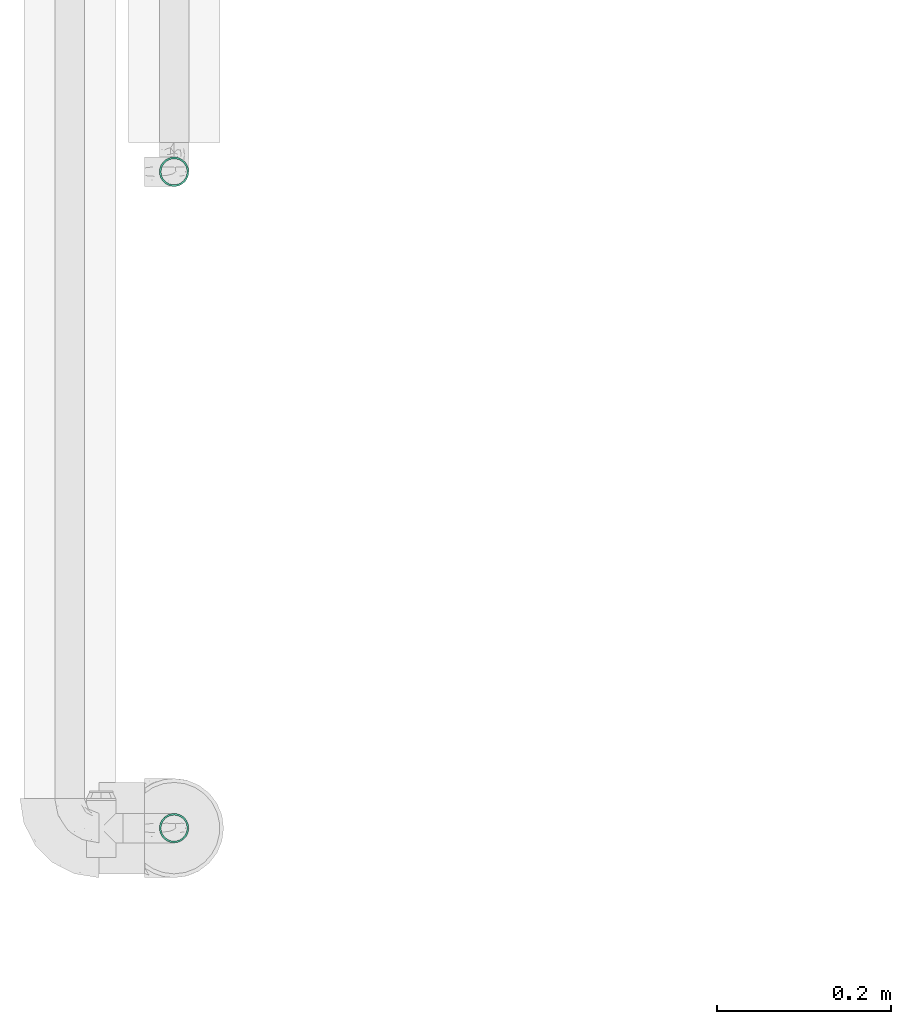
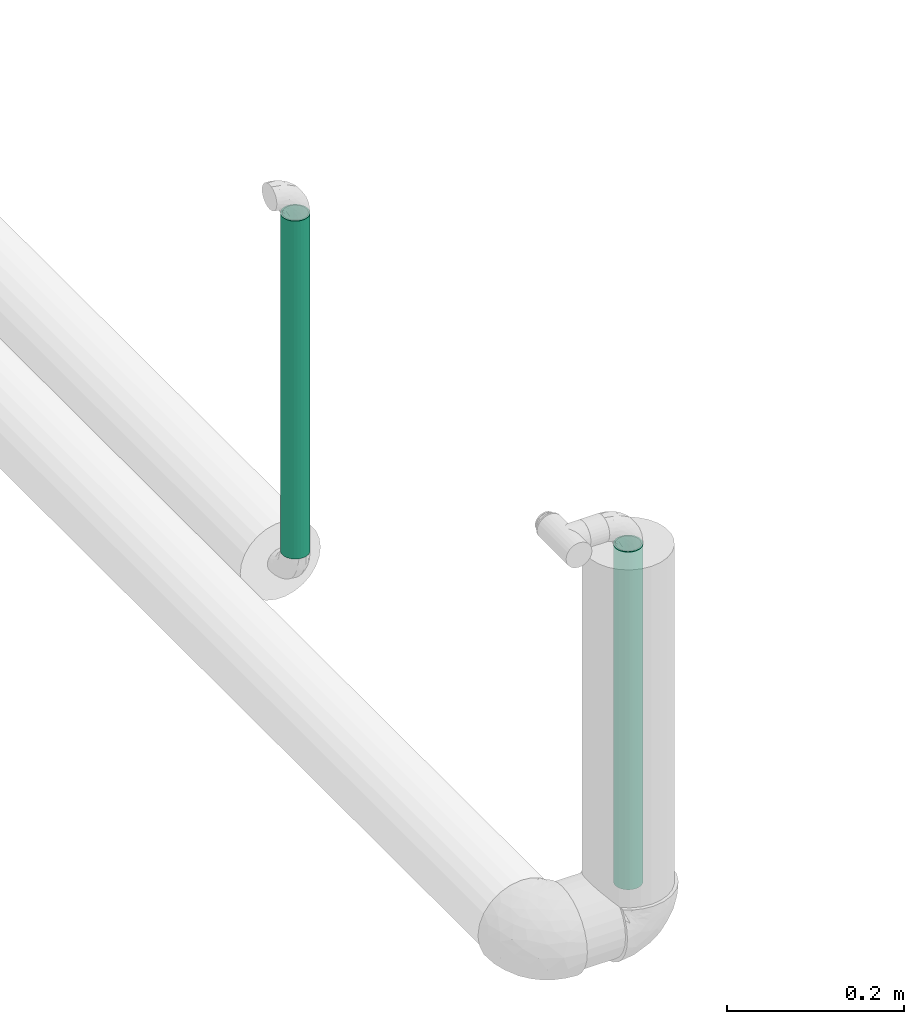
# One storey, part 5 of 17: 2 flow segments.
"""IFC2X3 building model written with IfcOpenShell, lengths in millimetres."""

from ifc_helpers import new_model, entity, si_unit, converted_unit, derived_unit, direction, frame, origin_with_axes, origin_2d_with_axis, place, context, subcontext, project, spatial, hollow_circle, extrude, source, transform, mapped, type_object, element, save


model = new_model("IFC2X3")

# Units and contexts
model_context = context("Model", 3, precision=0.01, world=frame((0.0, 4.29681676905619e-09, 0.0)), true_north=direction((4.01073788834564e-13, 1.0)))
plan_context = context("Plan", 3, precision=0.01, world=frame((0.0, 4.29681676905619e-09, 0.0)), true_north=direction((4.01073788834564e-13, 1.0)))
body_context = subcontext(model_context, "Body", "Model", "MODEL_VIEW")
ifc_project = project(units=[converted_unit("PLANEANGLEUNIT", "DEGREE", entity("IfcPositiveLengthMeasure", 0.0174532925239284), si_unit("PLANEANGLEUNIT", "RADIAN"), dimensions=[0, 0, 0, 0, 0, 0, 0]), si_unit("AREAUNIT", "SQUARE_METRE"), si_unit("LENGTHUNIT", "METRE", prefix="MILLI"), si_unit("MASSUNIT", "GRAM", prefix="KILO"), si_unit("POWERUNIT", "WATT"), si_unit("PRESSUREUNIT", "PASCAL", prefix="KILO"), si_unit("FORCEUNIT", "NEWTON", prefix="KILO"), si_unit("ELECTRICVOLTAGEUNIT", "VOLT"), si_unit("ELECTRICCURRENTUNIT", "AMPERE"), si_unit("THERMODYNAMICTEMPERATUREUNIT", "DEGREE_CELSIUS"), si_unit("TIMEUNIT", "SECOND"), si_unit("VOLUMEUNIT", "CUBIC_METRE"), derived_unit("LINEARVELOCITYUNIT", [(si_unit("LENGTHUNIT", "METRE"), 1), (si_unit("TIMEUNIT", "SECOND"), -1)]), derived_unit("VOLUMETRICFLOWRATEUNIT", [(si_unit("VOLUMEUNIT", "CUBIC_METRE"), 1), (si_unit("TIMEUNIT", "SECOND"), -1)]), derived_unit("THERMALTRANSMITTANCEUNIT", [(si_unit("POWERUNIT", "WATT"), 1), (si_unit("THERMODYNAMICTEMPERATUREUNIT", "KELVIN"), -1), (si_unit("AREAUNIT", "SQUARE_METRE"), -1)]), derived_unit("SOUNDPRESSUREUNIT", [(si_unit("PRESSUREUNIT", "PASCAL"), 1)])], contexts=[model_context, plan_context])

# Site, building, storey
site_placement = place(None, frame((0.0, -4.29681676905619e-09, 0.0), z_axis=(0.0, 0.0, 1.0), x_axis=(1.0, 0.0, 0.0)))
site = spatial("IfcSite", under=ifc_project, at=site_placement, Name="ENGM", CompositionType="ELEMENT")
building_placement = place(site_placement, frame((0.0, 4.29681676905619e-09, 0.0), z_axis=(0.0, 0.0, 1.0), x_axis=(1.0, 0.0, 0.0)))
building = spatial("IfcBuilding", under=site, at=building_placement, Name="TI", CompositionType="ELEMENT")
storey_placement = place(building_placement, frame((0.0, 0.0, 207370.0), z_axis=(0.0, 0.0, 1.0), x_axis=(1.0, 0.0, 0.0)))
storey = spatial("IfcBuildingStorey", under=building, at=storey_placement, Name="Nivå E", CompositionType="ELEMENT", Elevation=207370.0)

# Flow segments
pipe_segment_type = type_object("IfcPipeSegmentType", Name="Stålrør normaltykke", PredefinedType="RIGIDSEGMENT")
shared_shape = source(origin_with_axes(), body_context, "Body", "SweptSolid", [
    extrude(hollow_circle(Radius=16.9, WallThickness=2.0, at=origin_2d_with_axis()), frame((0.0, 0.0, 0.0), z_axis=(1.0, 0.0, 0.0), x_axis=(0.0, 1.0, 0.0)), (0.0, 0.0, 1.0), 466.9),
])
for number, where, z_axis, x_axis in (
    (1, (585389.97776, 570723.24678, 2980.72527), (1.0, 0.0, 0.0), (0.0, 0.0, 1.0)),
    (2, (585389.97776, 571476.9411, 2980.71168000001), (0.0, -1.0, 0.0), (0.0, 0.0, 1.0)),
):
    element("IfcFlowSegment", number, at=place(storey_placement, frame(where, z_axis=z_axis, x_axis=x_axis)), inside=storey, type_object=pipe_segment_type, Name="Stålrør normaltykke", context=body_context, shape_type="MappedRepresentation", body=[
        mapped(shared_shape, transform((0.0, 0.0, 0.0), scale=1.0)),
    ])

save(model, "model.ifc")
